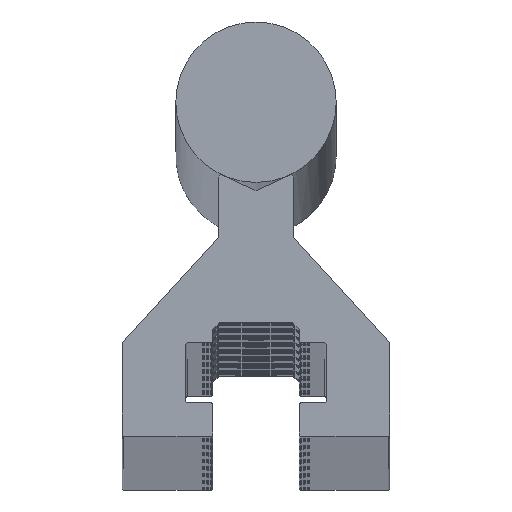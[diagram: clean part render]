
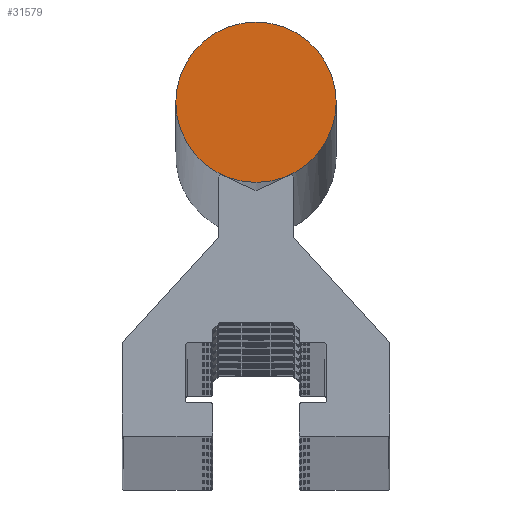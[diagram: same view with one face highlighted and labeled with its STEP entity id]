
A CAD part, top view. The second image highlights one B-rep face of the part: STEP entity #31579.
In plain terms, the highlighted planar face has unit normal (0, 0, 1).
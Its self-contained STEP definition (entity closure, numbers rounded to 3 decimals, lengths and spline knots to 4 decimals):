
#711 = AXIS2_PLACEMENT_3D ( 'NONE', #50299, #3781, #31489 ) ;
#1776 = CIRCLE ( 'NONE', #28348, 6. ) ;
#2181 = CARTESIAN_POINT ( 'NONE',  ( 6., 25., 1. ) ) ;
#2702 = ORIENTED_EDGE ( 'NONE', *, *, #15443, .T. ) ;
#3595 = PLANE ( 'NONE',  #711 ) ;
#3603 = FACE_OUTER_BOUND ( 'NONE', #33675, .T. ) ;
#3781 = DIRECTION ( 'NONE',  ( 0., 0., 1. ) ) ;
#15443 = EDGE_CURVE ( 'NONE', #41960, #41960, #1776, .T. ) ;
#22743 = DIRECTION ( 'NONE',  ( 1., 0., 0. ) ) ;
#22780 = DIRECTION ( 'NONE',  ( 0., 0., 1. ) ) ;
#22793 = CARTESIAN_POINT ( 'NONE',  ( 0., 25., 1. ) ) ;
#28348 = AXIS2_PLACEMENT_3D ( 'NONE', #22793, #22780, #22743 ) ;
#31489 = DIRECTION ( 'NONE',  ( 1., 0., 0. ) ) ;
#31579 = ADVANCED_FACE ( 'NONE', ( #3603 ), #3595, .T. ) ;
#33675 = EDGE_LOOP ( 'NONE', ( #2702 ) ) ;
#41960 = VERTEX_POINT ( 'NONE', #2181 ) ;
#50299 = CARTESIAN_POINT ( 'NONE',  ( 0., 25., 1. ) ) ;
